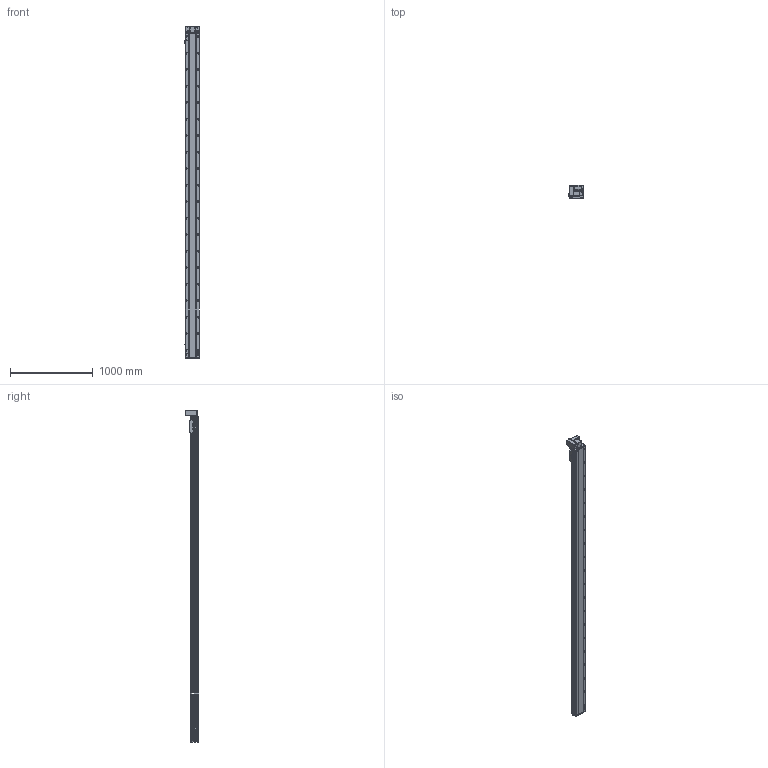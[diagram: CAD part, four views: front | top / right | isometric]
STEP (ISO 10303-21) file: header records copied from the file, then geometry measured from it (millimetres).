
FILE_DESCRIPTION (( 'STEP AP214' ), '1' );
FILE_NAME ('RTB17S-XX-3650-LW-M40-C4.STEP', '2025-12-11T07:25:28', ( '' ), ( '' ), 'SwSTEP 2.0', 'SolidWorks 2018', '' );
FILE_SCHEMA (( 'AUTOMOTIVE_DESIGN' ));
Length unit declared in the file: millimetre
Products named in the file (14): RTB17S-XX-3650-LW-M40-C4; RTB14-L-018P^RTB17S-LW-々湍釱蚾饜-400W_RTB17S-XX-XX-LW-M40-C4; RTB17S-L-001耜醱啣^RTB17S-XX-XX-LW-M40-C4; RTH13-BL-012覜茼え俋离^RTB17S-XX-XX-LW-M40-C4; RTB14-L-008-M20--萇儂啣^RTB17S-LW-々湍釱蚾饜-400W_RTB17S-XX-XX-LW-M40-C4; 400W侜督萇儂^RTB17S-XX-XX-LW-M40-C4; RTB17S-L-014-T20--々湍釱^RTB17S-LW-々湍釱蚾饜-400W_RTB17S-XX-XX-LW-M40-C4; RTB17S-L-004佪裝蹟譫蟀諉釱^RTB17S-XX-XX-LW-M40-C4; OMRON EE-SX672 传感器^RTB17S-XX-XX-LW-M40-C4; RTB17S-LW-々湍釱蚾饜-400W^RTB17S-XX-XX-LW-M40-C4; RTB14-L-017P^RTB17S-LW-々湍釱蚾饜-400W_RTB17S-XX-XX-LW-M40-C4; RTB17-R-011菁釱^RTB17S-XX-XX-LW-M40-C4; RTB14-L-005P--轴承塑胶压盖^RTB17S-LW-皮带座装配-400W_RTB17S-XX-XX-LW-M40-C4; RTB17S-L-007奻裔^RTB17S-XX-XX-LW-M40-C4
Assembly tree (16 placements, depth 3):
  RTB17S-XX-3650-LW-M40-C4
    RTB17-R-011菁釱^RTB17S-XX-XX-LW-M40-C4
    RTB17S-L-007奻裔^RTB17S-XX-XX-LW-M40-C4
    OMRON EE-SX672 传感器^RTB17S-XX-XX-LW-M40-C4  x3
    RTB17S-L-001耜醱啣^RTB17S-XX-XX-LW-M40-C4
    400W侜督萇儂^RTB17S-XX-XX-LW-M40-C4
    RTB17S-L-004佪裝蹟譫蟀諉釱^RTB17S-XX-XX-LW-M40-C4
    RTH13-BL-012覜茼え俋离^RTB17S-XX-XX-LW-M40-C4
    RTB17S-LW-々湍釱蚾饜-400W^RTB17S-XX-XX-LW-M40-C4
      RTB17S-L-014-T20--々湍釱^RTB17S-LW-々湍釱蚾饜-400W_RTB17S-XX-XX-LW-M40-C4
      RTB14-L-005P--轴承塑胶压盖^RTB17S-LW-皮带座装配-400W_RTB17S-XX-XX-LW-M40-C4
      RTB14-L-008-M20--萇儂啣^RTB17S-LW-々湍釱蚾饜-400W_RTB17S-XX-XX-LW-M40-C4
      RTB14-L-017P^RTB17S-LW-々湍釱蚾饜-400W_RTB17S-XX-XX-LW-M40-C4  x2
      RTB14-L-018P^RTB17S-LW-々湍釱蚾饜-400W_RTB17S-XX-XX-LW-M40-C4
Bounding box: 186 x 160.5 x 4022.5 mm (x, y, z)
Volume: 33979620.4 mm3; surface area: 3856485.6 mm2
Topology: 15 solids, 15 shells, 2429 faces, 6843 edges, 4473 vertices
Faces by surface type: plane 1096, cylinder 885, bspline 301, cone 139, torus 8
Entity records: 73385 total; most frequent: CARTESIAN_POINT 21048, ORIENTED_EDGE 10530, DIRECTION 9656, EDGE_CURVE 5265, VERTEX_POINT 3461, AXIS2_PLACEMENT_3D 3391, VECTOR 2874, LINE 2874
